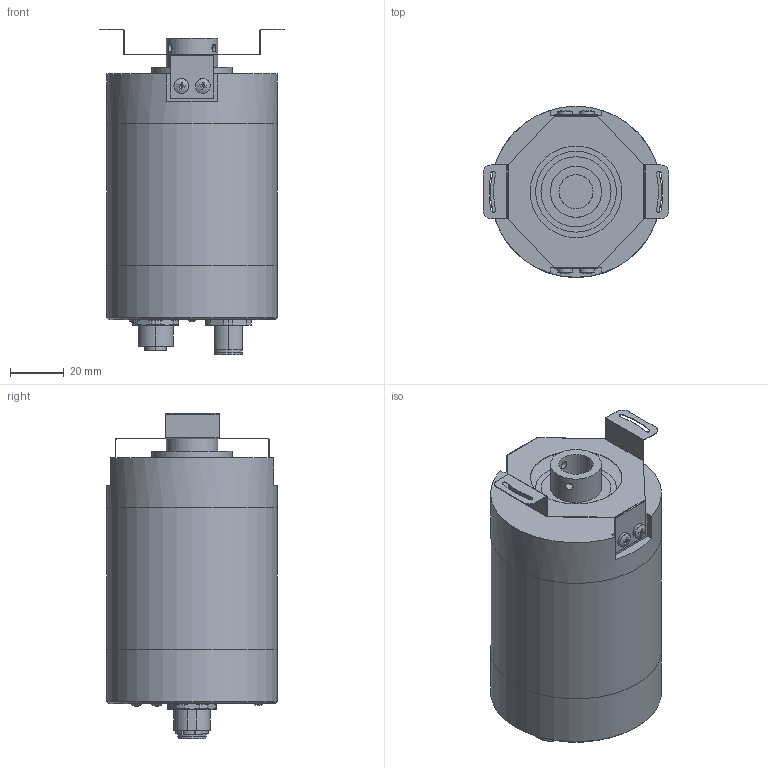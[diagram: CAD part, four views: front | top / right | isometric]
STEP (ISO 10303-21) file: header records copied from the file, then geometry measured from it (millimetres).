
FILE_DESCRIPTION(/* description */ ('Alibre Inc.'),/* implementation_level */ '2;1');
FILE_NAME(/* name */ 'export0',/* time_stamp */ '2010-05-25T09:14:47-04:00',/* author */ (''),/* organization */ (''),/* preprocessor_version */ 'ST-DEVELOPER v10',/* originating_system */ 'Alibre',/* authorisation */ '');
FILE_SCHEMA (('CONFIG_CONTROL_DESIGN'));
Length unit declared in the file: centimetre
Products named in the file (14): ID_1; ID_2; ID_3; ID_4; ID_5; ID_6; ID_7; ID_8; ID_9; ID_10; ID_11; ID_12
Bounding box: 69 x 63.5 x 120.87 mm (x, y, z)
Volume: 286476.9 mm3; surface area: 58562.7 mm2
Topology: 16 solids, 16 shells, 447 faces, 1056 edges, 689 vertices
Faces by surface type: plane 173, cylinder 152, bspline 76, cone 35, sphere 8, torus 3
Full cylindrical faces by diameter (mm): 2.87 x11, 2.92 x2, 3 x20, 3.2 x4, 3.96 x4, 5.44 x4, 11.5 x1, 12.71 x1, 19 x3, 20 x2, 24 x2, 26 x2, 30 x1, 34 x1, 37 x2, 58.72 x2, 63.5 x3
Entity records: 12404 total; most frequent: CARTESIAN_POINT 2752, DIRECTION 1620, ORIENTED_EDGE 1576, EDGE_CURVE 788, AXIS2_PLACEMENT_3D 715, VERTEX_POINT 552, EDGE_LOOP 518, FACE_BOUND 518
